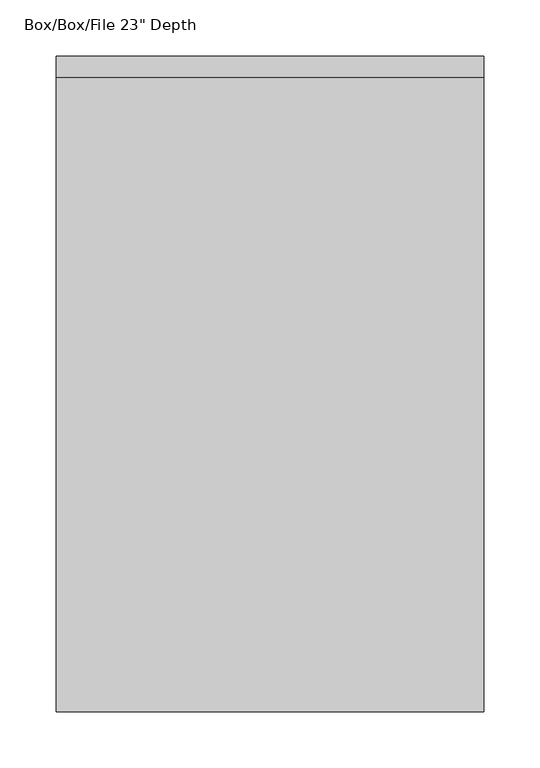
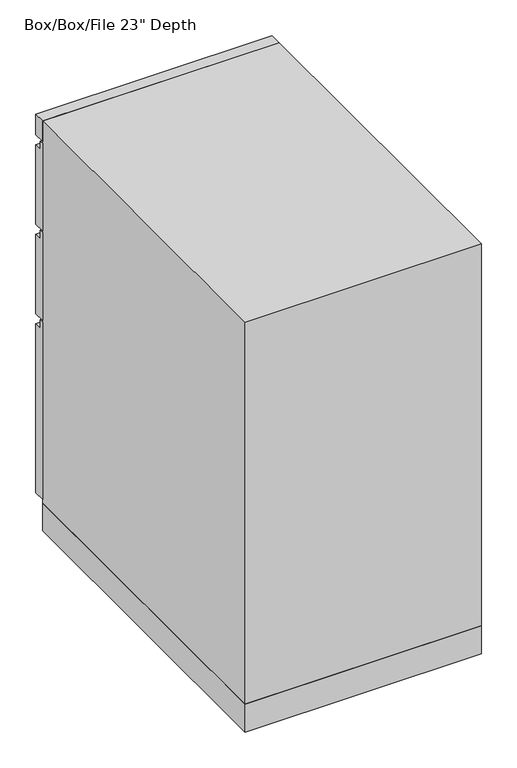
"""IFC4 building model written with IfcOpenShell, lengths in millimetres: furniture geometry."""

from ifc_helpers import new_model, si_unit, frame, origin, origin_with_axes, place, context, project, spatial, polyline, outline, extrude, source, transform, mapped, element, save


def furniture_747a64ef(model_context):
    return source(origin(), model_context, "Body", "SweptSolid", [
        extrude(outline(polyline([(565.15, 358.775), (565.15, 508.0), (571.5, 508.0), (571.5, 493.7125), (584.2, 493.7125), (584.2, 358.775), (565.15, 358.775)])), frame((-190.5, 0.0, 0.0), z_axis=(1.0, 0.0, 0.0), x_axis=(0.0, 1.0, 0.0)), (0.0, 0.0, 1.0), 381.0),
        extrude(outline(polyline([(565.15, 511.175), (565.15, 660.4), (571.5, 660.4), (571.5, 646.1125), (584.2, 646.1125), (584.2, 511.175), (565.15, 511.175)])), frame((-190.5, 0.0, 0.0), z_axis=(1.0, 0.0, 0.0), x_axis=(0.0, 1.0, 0.0)), (0.0, 0.0, 1.0), 381.0),
        extrude(outline(polyline([(565.15, 53.975), (565.15, 355.6), (571.5, 355.6), (571.5, 341.3125), (584.2, 341.3125), (584.2, 53.975), (565.15, 53.975)])), frame((-190.5, 0.0, 0.0), z_axis=(1.0, 0.0, 0.0), x_axis=(0.0, 1.0, 0.0)), (0.0, 0.0, 1.0), 381.0),
        extrude(outline(polyline([(190.5, 0.0), (-190.5, 0.0), (-190.5, 565.15), (190.5, 565.15), (190.5, 0.0)])), origin_with_axes(), (0.0, 0.0, 1.0), 47.625),
        extrude(outline(polyline([(190.5, 584.2), (190.5, 565.15), (-190.5, 565.15), (-190.5, 584.2), (190.5, 584.2)])), frame((0.0, 0.0, 663.575), z_axis=(0.0, 0.0, 1.0), x_axis=(1.0, 0.0, 0.0)), (0.0, 0.0, 1.0), 34.925),
        extrude(outline(polyline([(190.5, 0.0), (-190.5, 0.0), (-190.5, 565.15), (190.5, 565.15), (190.5, 0.0)])), frame((0.0, 0.0, 47.625), z_axis=(0.0, 0.0, 1.0), x_axis=(1.0, 0.0, 0.0)), (0.0, 0.0, 1.0), 650.875),
    ])


if __name__ == "__main__":
    model = new_model("IFC4")
    model_context = context("Model", 3, world=origin())
    ifc_project = project(units=[si_unit("LENGTHUNIT", "METRE", prefix="MILLI")], contexts=[model_context])
    site = spatial("IfcSite", under=ifc_project)
    building = spatial("IfcBuilding", under=site)
    placement = place(None, origin())
    furniture_shape = furniture_747a64ef(model_context)
    element("IfcFurniture", 1, ObjectType="Haworth_XSeries-Mobile_Pedestal : Box/Box/File 23\" Depth", at=placement, inside=building, context=model_context, shape_type="MappedRepresentation", body=[
        mapped(furniture_shape, transform((0.0, 0.0, 0.0), x_axis=(1.0, 0.0, 0.0), y_axis=(0.0, 1.0, 0.0), z_axis=(0.0, 0.0, 1.0))),
    ])
    save(model, "model.ifc")
